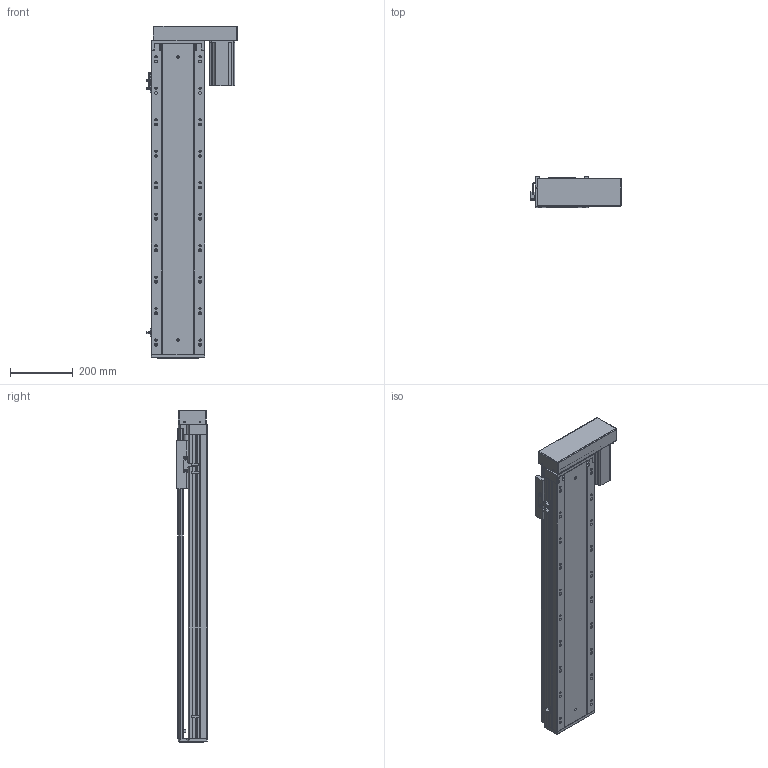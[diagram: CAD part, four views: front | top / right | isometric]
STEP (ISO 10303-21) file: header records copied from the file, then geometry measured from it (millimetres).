
FILE_DESCRIPTION (( 'STEP AP203' ), '1' );
FILE_NAME ('RY170-L2510-300-RK.SLDASM_750.step', '2021-03-12T09:19:37', ( '盈信电脑' ), ( '东莞市道滘镇水果街19号' ), 'SwSTEP 2.0', 'SolidWorks 2012', '' );
FILE_SCHEMA (( 'CONFIG_CONTROL_DESIGN' ));
Products named in the file (14): RY170外置感应片(200共用）; 覜茼ん672; RY170-L2510-300-RK.SLDASM_750; RY170酘衵殏萇儂欶750W; 怢湛750W萇儂ㄗ80遺ㄘ; RY170-酘衵殏750W萇儂傷; RY170-左右折电机安装板750W; 滅袉蝶18-10; 滅袉蝶18-20; RY170转折电机端支撑座(7004); RY170-300倰第菁釱-RK_750; 改造-RY170铝滑块25丝杆螺母; RY170綴裔啣; RY170-300倰第裔啣-RK_750
Assembly tree (15 placements, depth 3):
  RY170-L2510-300-RK.SLDASM_750
    RY170-300倰第菁釱-RK_750
    改造-RY170铝滑块25丝杆螺母
    RY170-300倰第裔啣-RK_750
    RY170綴裔啣
    滅袉蝶18-20
    滅袉蝶18-10
    RY170转折电机端支撑座(7004)
    RY170-酘衵殏750W萇儂傷
      RY170-左右折电机安装板750W
      RY170酘衵殏萇儂欶750W
      怢湛750W萇儂ㄗ80遺ㄘ
    覜茼ん672  x3
    RY170外置感应片(200共用）
Bounding box: 286.2 x 97 x 1055 mm (x, y, z)
Volume: 6150458 mm3; surface area: 1886990.1 mm2
Topology: 14 solids, 14 shells, 2243 faces, 6502 edges, 4188 vertices
Faces by surface type: plane 1092, cylinder 962, cone 170, bspline 19
Entity records: 73931 total; most frequent: CARTESIAN_POINT 18320, ORIENTED_EDGE 11756, DIRECTION 10728, EDGE_CURVE 5878, VERTEX_POINT 3868, AXIS2_PLACEMENT_3D 3594, LINE 3540, VECTOR 3540
